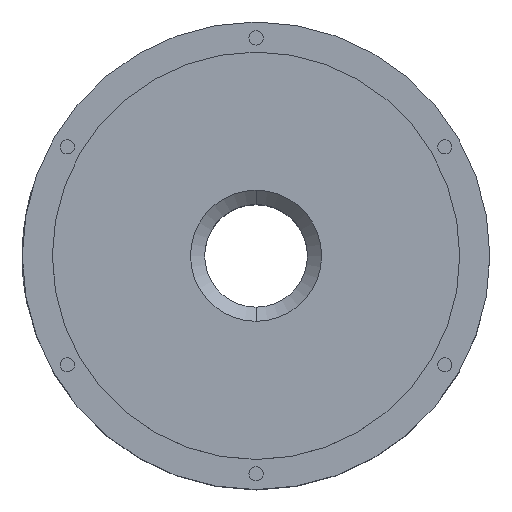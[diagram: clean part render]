
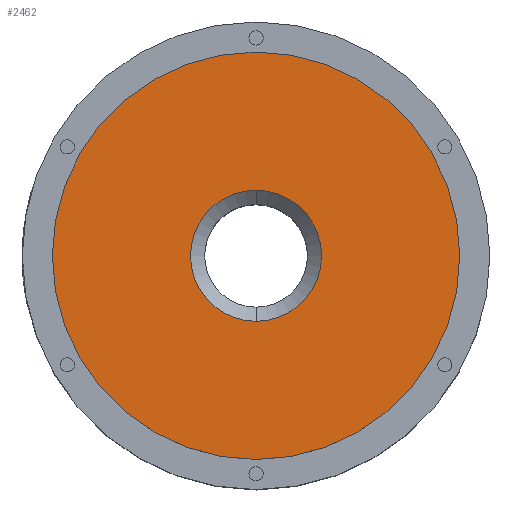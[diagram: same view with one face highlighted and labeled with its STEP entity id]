
A CAD part, top view. The second image highlights one B-rep face of the part: STEP entity #2462.
In plain terms, the highlighted planar face has unit normal (0, 0, 1).
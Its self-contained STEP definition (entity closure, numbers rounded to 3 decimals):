
#574 = VERTEX_POINT ( 'NONE', #3090 ) ;
#576 = EDGE_CURVE ( 'NONE', #574, #593, #3082, .T. ) ;
#593 = VERTEX_POINT ( 'NONE', #3134 ) ;
#603 = VERTEX_POINT ( 'NONE', #3156 ) ;
#604 = VERTEX_POINT ( 'NONE', #3158 ) ;
#622 = EDGE_CURVE ( 'NONE', #603, #604, #3188, .T. ) ;
#1128 = ORIENTED_EDGE ( 'NONE', *, *, #2464, .T. ) ;
#1680 = EDGE_CURVE ( 'NONE', #604, #603, #5139, .T. ) ;
#1739 = ORIENTED_EDGE ( 'NONE', *, *, #576, .T. ) ;
#1811 = EDGE_LOOP ( 'NONE', ( #1739, #1128 ) ) ;
#2415 = ORIENTED_EDGE ( 'NONE', *, *, #1680, .F. ) ;
#2429 = EDGE_LOOP ( 'NONE', ( #2519, #2415 ) ) ;
#2462 = ADVANCED_FACE ( 'NONE', ( #6063, #6060 ), #6061, .T. ) ;
#2464 = EDGE_CURVE ( 'NONE', #593, #574, #5544, .T. ) ;
#2519 = ORIENTED_EDGE ( 'NONE', *, *, #622, .F. ) ;
#3078 = DIRECTION ( 'NONE',  ( 0., -1., 0. ) ) ;
#3079 = DIRECTION ( 'NONE',  ( 0., 0., -1. ) ) ;
#3080 = CARTESIAN_POINT ( 'NONE',  ( 0., 0., 138. ) ) ;
#3081 = AXIS2_PLACEMENT_3D ( 'NONE', #3080, #3079, #3078 ) ;
#3082 = CIRCLE ( 'NONE', #3081, 37. ) ;
#3090 = CARTESIAN_POINT ( 'NONE',  ( 0., -37., 138. ) ) ;
#3134 = CARTESIAN_POINT ( 'NONE',  ( 0., 37., 138. ) ) ;
#3156 = CARTESIAN_POINT ( 'NONE',  ( 0., 115., 138. ) ) ;
#3158 = CARTESIAN_POINT ( 'NONE',  ( 0., -115., 138. ) ) ;
#3175 = DIRECTION ( 'NONE',  ( 0., 1., 0. ) ) ;
#3176 = DIRECTION ( 'NONE',  ( 0., 0., -1. ) ) ;
#3182 = CARTESIAN_POINT ( 'NONE',  ( 0., 0., 138. ) ) ;
#3185 = AXIS2_PLACEMENT_3D ( 'NONE', #3182, #3176, #3175 ) ;
#3188 = CIRCLE ( 'NONE', #3185, 115. ) ;
#5123 = DIRECTION ( 'NONE',  ( 0., 1., 0. ) ) ;
#5124 = DIRECTION ( 'NONE',  ( 0., 0., -1. ) ) ;
#5125 = CARTESIAN_POINT ( 'NONE',  ( 0., 0., 138. ) ) ;
#5126 = AXIS2_PLACEMENT_3D ( 'NONE', #5125, #5124, #5123 ) ;
#5139 = CIRCLE ( 'NONE', #5126, 115. ) ;
#5544 = CIRCLE ( 'NONE', #5547, 37. ) ;
#5547 = AXIS2_PLACEMENT_3D ( 'NONE', #5811, #5819, #5818 ) ;
#5811 = CARTESIAN_POINT ( 'NONE',  ( 0., 0., 138. ) ) ;
#5818 = DIRECTION ( 'NONE',  ( 0., -1., 0. ) ) ;
#5819 = DIRECTION ( 'NONE',  ( 0., 0., -1. ) ) ;
#6054 = DIRECTION ( 'NONE',  ( 0., -1., 0. ) ) ;
#6055 = DIRECTION ( 'NONE',  ( 0., 0., 1. ) ) ;
#6058 = CARTESIAN_POINT ( 'NONE',  ( 0., -29., 138. ) ) ;
#6060 = FACE_OUTER_BOUND ( 'NONE', #2429, .T. ) ;
#6061 = PLANE ( 'NONE',  #6068 ) ;
#6063 = FACE_BOUND ( 'NONE', #1811, .T. ) ;
#6068 = AXIS2_PLACEMENT_3D ( 'NONE', #6058, #6055, #6054 ) ;
